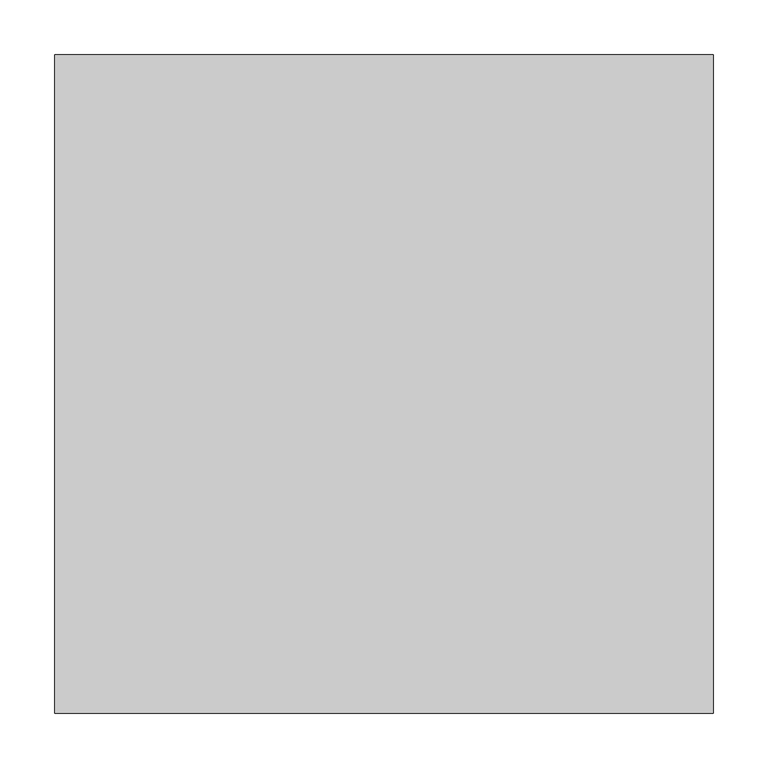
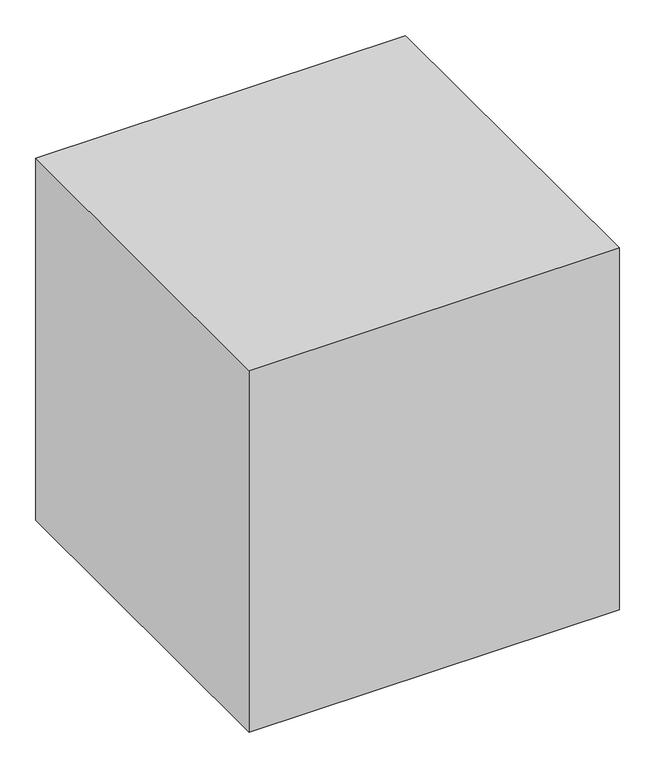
"""IFC4 building model written with IfcOpenShell, lengths in millimetres: proxy geometry, ▲GM_Зона обслуживания : Тип."""

from ifc_helpers import new_model, si_unit, origin, origin_with_axes, place, context, project, spatial, polyline, outline, extrude, source, transform, mapped, element, save


def generic_models_33cc4bbc(model_context):
    return source(origin(), model_context, "Body", "SweptSolid", [
        extrude(outline(polyline([(600.0, -600.0), (0.0, -600.0), (0.0, 0.0), (600.0, 0.0), (600.0, -600.0)])), origin_with_axes(), (0.0, 0.0, 1.0), 620.0),
    ])


if __name__ == "__main__":
    model = new_model("IFC4")
    model_context = context("Model", 3, world=origin())
    ifc_project = project(units=[si_unit("LENGTHUNIT", "METRE", prefix="MILLI")], contexts=[model_context])
    site = spatial("IfcSite", under=ifc_project)
    building = spatial("IfcBuilding", under=site)
    placement = place(None, origin())
    generic_models_shape = generic_models_33cc4bbc(model_context)
    element("IfcBuildingElementProxy", 1, Name="▲GM_Зона обслуживания : Тип", ObjectType="▲GM_Зона обслуживания : Тип", at=placement, inside=building, context=model_context, shape_type="MappedRepresentation", body=[
        mapped(generic_models_shape, transform((0.0, 0.0, 0.0), x_axis=(1.0, 0.0, 0.0), y_axis=(0.0, 1.0, 0.0), z_axis=(0.0, 0.0, 1.0))),
    ])
    save(model, "model.ifc")
